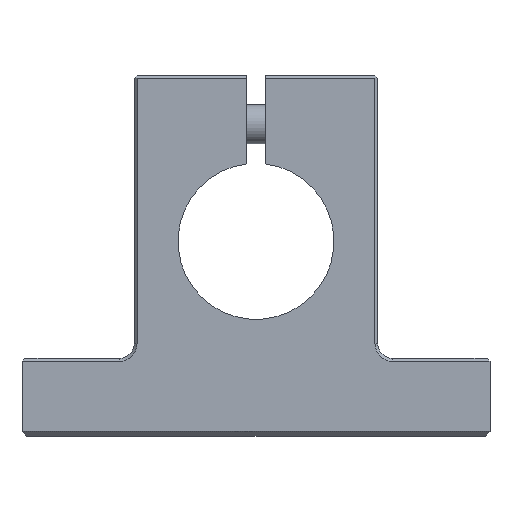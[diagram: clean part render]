
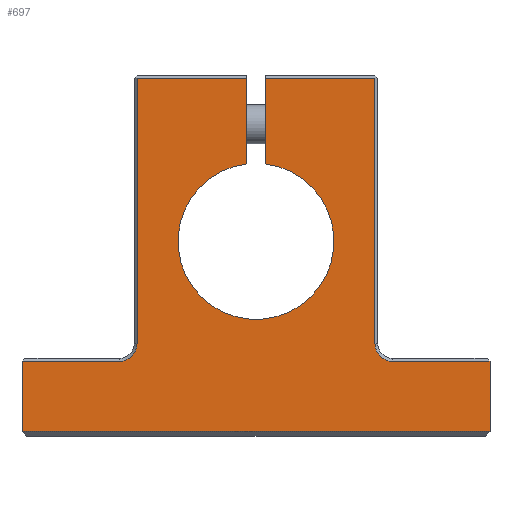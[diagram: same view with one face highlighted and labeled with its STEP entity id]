
A CAD part, left-side view. The second image highlights one B-rep face of the part: STEP entity #697.
In plain terms, the highlighted planar face has unit normal (-1, 0, 0).
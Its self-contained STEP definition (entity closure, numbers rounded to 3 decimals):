
#441=CARTESIAN_POINT('',(0.0,-24.,-19.5));
#442=VERTEX_POINT('',#441);
#443=CARTESIAN_POINT('',(0.0,24.,-19.5));
#444=VERTEX_POINT('',#443);
#445=CARTESIAN_POINT('',(0.0,-24.,-19.5));
#446=DIRECTION('',(0.0,1.0,0.0));
#447=VECTOR('',#446,48.);
#448=LINE('',#445,#447);
#449=EDGE_CURVE('',#442,#444,#448,.T.);
#566=CARTESIAN_POINT('',(0.0,24.,-12.3));
#567=VERTEX_POINT('',#566);
#568=CARTESIAN_POINT('',(0.0,24.,-19.5));
#569=DIRECTION('',(0.0,0.0,1.0));
#570=VECTOR('',#569,7.2);
#571=LINE('',#568,#570);
#572=EDGE_CURVE('',#444,#567,#571,.T.);
#591=CARTESIAN_POINT('',(0.0,0.,-3.026));
#592=DIRECTION('',(1.0,0.0,0.0));
#593=DIRECTION('',(0.0,0.0,-1.0));
#594=AXIS2_PLACEMENT_3D('',#591,#592,#593);
#595=PLANE('',#594);
#596=ORIENTED_EDGE('',*,*,#449,.F.);
#597=CARTESIAN_POINT('',(0.0,-24.,-12.3));
#598=VERTEX_POINT('',#597);
#599=CARTESIAN_POINT('',(0.0,-24.,-12.3));
#600=DIRECTION('',(0.0,0.0,-1.0));
#601=VECTOR('',#600,7.2);
#602=LINE('',#599,#601);
#603=EDGE_CURVE('',#598,#442,#602,.T.);
#604=ORIENTED_EDGE('',*,*,#603,.F.);
#605=CARTESIAN_POINT('',(0.0,-14.,-12.3));
#606=VERTEX_POINT('',#605);
#607=CARTESIAN_POINT('',(0.0,-14.,-12.3));
#608=DIRECTION('',(0.0,-1.0,0.0));
#609=VECTOR('',#608,10.);
#610=LINE('',#607,#609);
#611=EDGE_CURVE('',#606,#598,#610,.T.);
#612=ORIENTED_EDGE('',*,*,#611,.F.);
#613=CARTESIAN_POINT('',(0.0,-12.2,-10.5));
#614=VERTEX_POINT('',#613);
#615=CARTESIAN_POINT('',(0.0,-14.,-10.5));
#616=DIRECTION('',(-1.,0.0,0.0));
#617=DIRECTION('',(0.0,0.707,-0.707));
#618=AXIS2_PLACEMENT_3D('',#615,#616,#617);
#619=CIRCLE('',#618,1.8);
#620=EDGE_CURVE('',#614,#606,#619,.T.);
#621=ORIENTED_EDGE('',*,*,#620,.F.);
#622=CARTESIAN_POINT('',(0.0,-12.2,16.7));
#623=VERTEX_POINT('',#622);
#624=CARTESIAN_POINT('',(0.0,-12.2,16.7));
#625=DIRECTION('',(0.0,0.0,-1.0));
#626=VECTOR('',#625,27.2);
#627=LINE('',#624,#626);
#628=EDGE_CURVE('',#623,#614,#627,.T.);
#629=ORIENTED_EDGE('',*,*,#628,.F.);
#630=CARTESIAN_POINT('',(0.0,-1.,16.7));
#631=VERTEX_POINT('',#630);
#632=CARTESIAN_POINT('',(0.0,-1.,16.7));
#633=DIRECTION('',(0.0,-1.0,0.0));
#634=VECTOR('',#633,11.2);
#635=LINE('',#632,#634);
#636=EDGE_CURVE('',#631,#623,#635,.T.);
#637=ORIENTED_EDGE('',*,*,#636,.F.);
#638=CARTESIAN_POINT('',(0.0,-1.,7.937));
#639=VERTEX_POINT('',#638);
#640=CARTESIAN_POINT('',(0.0,-1.,7.937));
#641=DIRECTION('',(0.0,0.0,1.0));
#642=VECTOR('',#641,8.763);
#643=LINE('',#640,#642);
#644=EDGE_CURVE('',#639,#631,#643,.T.);
#645=ORIENTED_EDGE('',*,*,#644,.F.);
#646=CARTESIAN_POINT('',(0.0,1.,7.937));
#647=VERTEX_POINT('',#646);
#648=CARTESIAN_POINT('',(0.0,0.0,0.0));
#649=DIRECTION('',(-1.0,0.0,0.0));
#650=DIRECTION('',(0.0,-1.0,0.0));
#651=AXIS2_PLACEMENT_3D('',#648,#649,#650);
#652=CIRCLE('',#651,8.0);
#653=EDGE_CURVE('',#647,#639,#652,.T.);
#654=ORIENTED_EDGE('',*,*,#653,.F.);
#655=CARTESIAN_POINT('',(0.0,1.,16.7));
#656=VERTEX_POINT('',#655);
#657=CARTESIAN_POINT('',(0.0,1.,16.7));
#658=DIRECTION('',(0.0,0.0,-1.0));
#659=VECTOR('',#658,8.763);
#660=LINE('',#657,#659);
#661=EDGE_CURVE('',#656,#647,#660,.T.);
#662=ORIENTED_EDGE('',*,*,#661,.F.);
#663=CARTESIAN_POINT('',(0.0,12.2,16.7));
#664=VERTEX_POINT('',#663);
#665=CARTESIAN_POINT('',(0.0,12.2,16.7));
#666=DIRECTION('',(0.0,-1.0,0.0));
#667=VECTOR('',#666,11.2);
#668=LINE('',#665,#667);
#669=EDGE_CURVE('',#664,#656,#668,.T.);
#670=ORIENTED_EDGE('',*,*,#669,.F.);
#671=CARTESIAN_POINT('',(0.0,12.2,-10.5));
#672=VERTEX_POINT('',#671);
#673=CARTESIAN_POINT('',(0.0,12.2,-10.5));
#674=DIRECTION('',(0.0,0.0,1.0));
#675=VECTOR('',#674,27.2);
#676=LINE('',#673,#675);
#677=EDGE_CURVE('',#672,#664,#676,.T.);
#678=ORIENTED_EDGE('',*,*,#677,.F.);
#679=CARTESIAN_POINT('',(0.0,14.,-12.3));
#680=VERTEX_POINT('',#679);
#681=CARTESIAN_POINT('',(0.0,14.,-10.5));
#682=DIRECTION('',(-1.,0.0,0.0));
#683=DIRECTION('',(0.0,-0.707,-0.707));
#684=AXIS2_PLACEMENT_3D('',#681,#682,#683);
#685=CIRCLE('',#684,1.8);
#686=EDGE_CURVE('',#680,#672,#685,.T.);
#687=ORIENTED_EDGE('',*,*,#686,.F.);
#688=CARTESIAN_POINT('',(0.0,24.,-12.3));
#689=DIRECTION('',(0.0,-1.0,0.0));
#690=VECTOR('',#689,10.);
#691=LINE('',#688,#690);
#692=EDGE_CURVE('',#567,#680,#691,.T.);
#693=ORIENTED_EDGE('',*,*,#692,.F.);
#694=ORIENTED_EDGE('',*,*,#572,.F.);
#695=EDGE_LOOP('',(#596,#604,#612,#621,#629,#637,#645,#654,#662,#670,#678,#687,#693,#694));
#696=FACE_OUTER_BOUND('',#695,.T.);
#697=ADVANCED_FACE('',(#696),#595,.F.);
